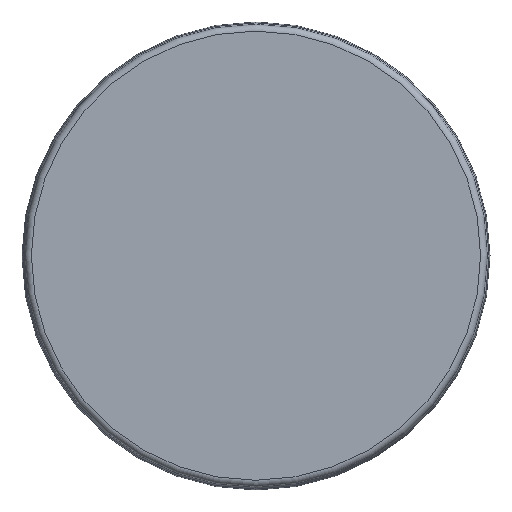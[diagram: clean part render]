
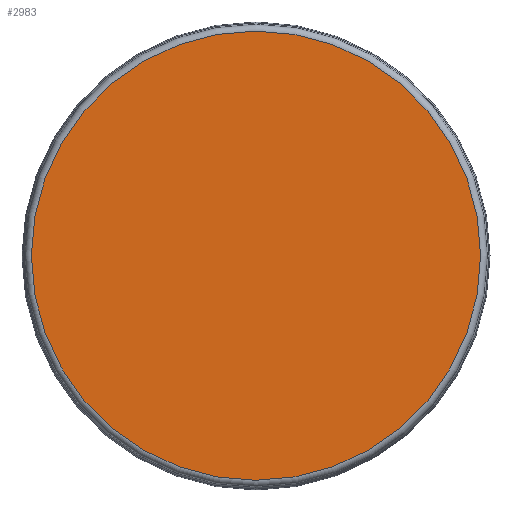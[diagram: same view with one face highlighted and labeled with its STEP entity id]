
A CAD part, top view. The second image highlights one B-rep face of the part: STEP entity #2983.
In plain terms, the highlighted planar face has unit normal (0, 0, 1).
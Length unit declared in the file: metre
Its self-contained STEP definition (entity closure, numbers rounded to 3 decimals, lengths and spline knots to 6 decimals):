
#111=CIRCLE('',#3175,0.016598);
#816=ORIENTED_EDGE('',*,*,#1729,.T.);
#1729=EDGE_CURVE('',#2186,#2186,#111,.T.);
#2186=VERTEX_POINT('',#4197);
#2536=EDGE_LOOP('',(#816));
#2728=FACE_BOUND('',#2536,.T.);
#2901=PLANE('',#3174);
#2983=ADVANCED_FACE('',(#2728),#2901,.T.);
#3174=AXIS2_PLACEMENT_3D('',#4195,#3338,#3339);
#3175=AXIS2_PLACEMENT_3D('',#4196,#3340,#3341);
#3338=DIRECTION('',(0.,0.,1.));
#3339=DIRECTION('',(1.,0.,0.));
#3340=DIRECTION('',(0.,0.,1.));
#3341=DIRECTION('',(1.,0.,0.));
#4195=CARTESIAN_POINT('',(0.00875,0.,0.));
#4196=CARTESIAN_POINT('',(0.,0.,0.));
#4197=CARTESIAN_POINT('',(0.016598,0.,0.));
